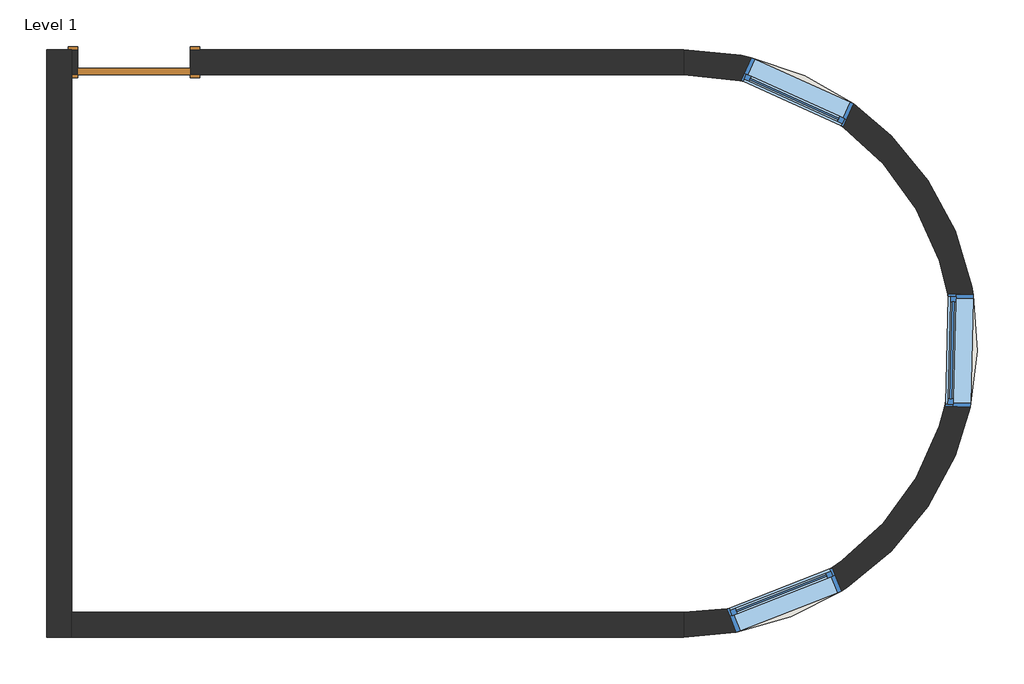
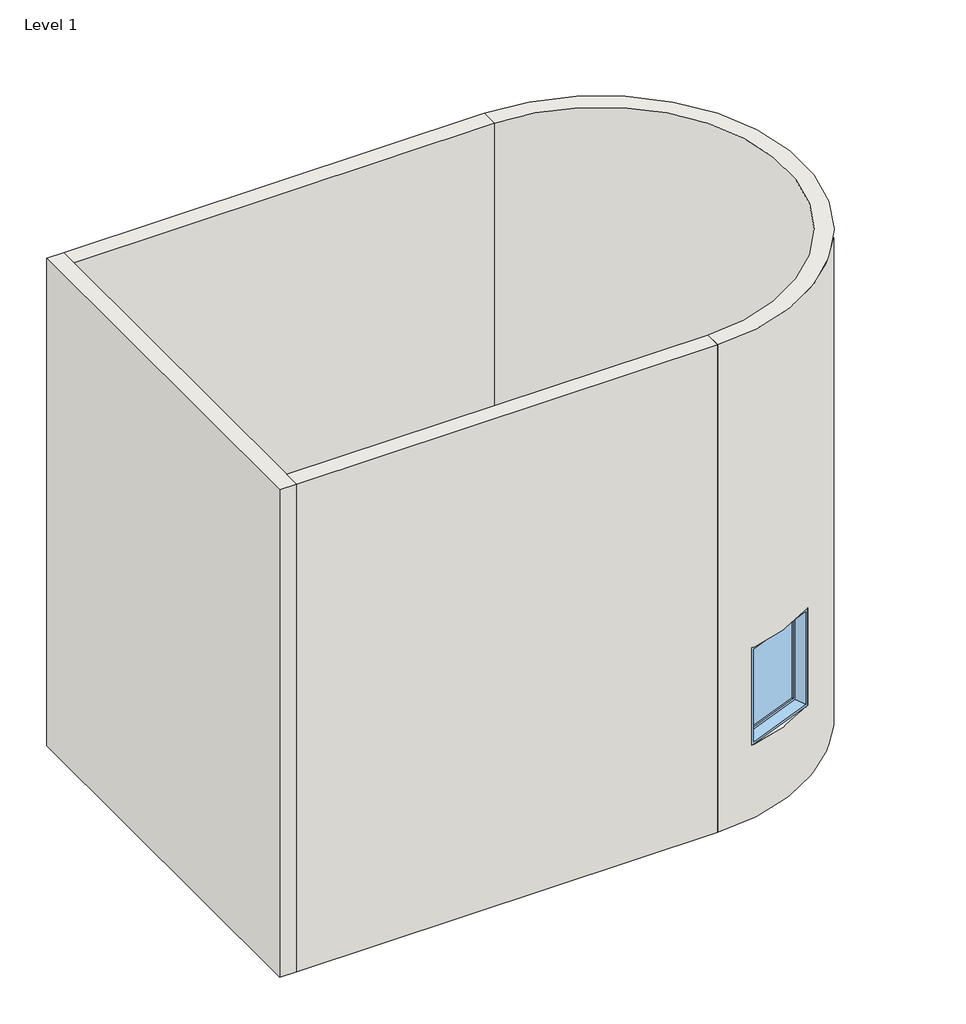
# One storey: 4 walls, 3 windows, 1 door.
"""IFC4 building model written with IfcOpenShell, lengths in millimetres."""

from ifc_helpers import new_model, si_unit, frame, origin, origin_with_axes, place, context, project, spatial, polyline, circle_curve, outline, extrude, faceted_brep, transform, mapped, element, save
from ifc_brep_helpers import plane_surface, cylinder_surface, revolved_surface, advanced_brep
from components import door_54dd4da4, window_e2841890

model = new_model("IFC4")

# Units and contexts
model_context = context("Model", 3, world=origin())
ifc_project = project(units=[si_unit("LENGTHUNIT", "METRE", prefix="MILLI")], contexts=[model_context])

# Site, building, storey
site = spatial("IfcSite", under=ifc_project)
building = spatial("IfcBuilding", under=site)
storey = spatial("IfcBuildingStorey", under=building, Name="Level 1", Elevation=0.0)

# Door
placement = place(None, origin())
door_shape = door_54dd4da4(model_context)
element("IfcDoor", 1, ObjectType="Single-Flush : 36\" x 84\"", at=placement, inside=storey, context=model_context, shape_type="MappedRepresentation", body=[
    mapped(door_shape, transform((-4806.0926473, 2875.2750639, 0.0), x_axis=(-1.0, 0.0, 0.0), y_axis=(0.0, -1.0, 0.0), z_axis=(0.0, 0.0, 1.0))),
])

# Walls
element("IfcWall", 2, ObjectType="Generic - 8\"", at=placement, inside=storey, context=model_context, shape_type="Brep", body=[
    faceted_brep([(-5517.2926473, 2976.8750639, 0.0), (-5517.2926473, -1798.3249361, 0.0), (-5517.2926473, -1798.3249361, 6096.0), (-5517.2926473, 2976.8750639, 6096.0), (-5314.0926473, 2976.8750639, 0.0), (-5314.0926473, 2976.8750639, 6096.0), (-5314.0926473, 2773.6750639, 6096.0), (-5314.0926473, -1595.1249361, 6096.0), (-5314.0926473, -1798.3249361, 6096.0), (-5314.0926473, -1798.3249361, 0.0), (-5314.0926473, -1595.1249361, 0.0), (-5314.0926473, 2773.6750639, 0.0)], [[[0, 1, 2, 3]], [[4, 5, 6, 7, 8, 9, 10, 11]], [[1, 0, 4, 11, 10, 9]], [[3, 2, 8, 7, 6, 5]], [[2, 1, 9, 8]], [[0, 3, 5, 4]]]),
])
element("IfcWall", 3, ObjectType="Generic - 8\"", at=placement, inside=storey, context=model_context, shape_type="SweptSolid", body=[
    extrude(outline(polyline([(-338.062626, -1798.3249361), (-5314.0926473, -1798.3249361), (-5314.0926473, -1595.1249361), (-338.062626, -1595.1249361), (-338.062626, -1798.3249361)])), origin_with_axes(), (0.0, 0.0, 1.0), 6096.0),
])
element("IfcWall", 4, ObjectType="Generic - 8\"", at=placement, inside=storey, context=model_context, shape_type="SweptSolid", body=[
    extrude(outline(polyline([(0.0, -338.062626), (6096.0, -338.062626), (6096.0, -5314.0926473), (0.0, -5314.0926473), (0.0, -5263.2926473), (2133.6, -5263.2926473), (2133.6, -4348.8926473), (0.0, -4348.8926473), (0.0, -338.062626)])), frame((0.0, 2773.6750639, 0.0), z_axis=(0.0, 1.0, 0.0), x_axis=(0.0, 0.0, 1.0)), (0.0, 0.0, 1.0), 203.2),
])
element("IfcWall", 5, ObjectType="Generic - 8\"", at=placement, inside=storey, context=model_context, shape_type="AdvancedBrep", body=[
    advanced_brep(
    [(-338.062626, -1798.3249361, 6096.0), (-338.062626, 2976.8750639, 6096.0), (-338.062626, 2773.6750639, 6096.0), (-338.062626, -1595.1249361, 6096.0), (-338.062626, 2976.8750639, 0.0), (-338.062626, -1798.3249361, 0.0), (-338.062626, -1595.1249361, 0.0), (-338.062626, 2773.6750639, 0.0), (210.965727, 2912.8932829, 2133.6), (210.965727, 2912.8932829, 914.4), (1044.1305215, 2536.1124642, 914.4), (1044.1305215, 2536.1124642, 2133.6), (941.615803, -1426.427513, 2133.6), (941.615803, -1426.427513, 914.4), (90.0832237, -1759.6235911, 914.4), (90.0832237, -1759.6235911, 2133.6), (2016.3945017, 985.7159725, 2133.6), (2016.3945017, 985.7159725, 914.4), (1992.7460074, 71.621826, 914.4), (1992.7460074, 71.621826, 2133.6), (125.5064307, 2723.9195518, 2133.6), (958.6712251, 2347.1387331, 2133.6), (958.6712251, 2347.1387331, 914.4), (125.5064307, 2723.9195518, 914.4), (866.0421512, -1233.2877047, 914.4), (866.0421512, -1233.2877047, 2133.6), (14.5095719, -1566.4837828, 2133.6), (14.5095719, -1566.4837828, 914.4), (1809.0648322, 991.0797904, 914.4), (1809.0648322, 991.0797904, 2133.6), (1785.4163379, 76.9856439, 2133.6), (1785.4163379, 76.9856439, 914.4)],
    [
        (0, 1, circle_curve(frame((-338.062626, 589.2750639, 6096.0), z_axis=(0.0, 0.0, 1.0), x_axis=(1.0, 0.0, 0.0)), 2387.6)),
        (1, 2),
        (2, 3, circle_curve(frame((-338.062626, 589.2750639, 6096.0), z_axis=(0.0, 0.0, -1.0), x_axis=(1.0, 0.0, 0.0)), 2184.4)),
        (3, 0),
        (4, 5, circle_curve(frame((-338.062626, 589.2750639, 0.0), z_axis=(0.0, 0.0, -1.0), x_axis=(1.0, 0.0, 0.0)), 2387.6)),
        (5, 6),
        (6, 7, circle_curve(frame((-338.062626, 589.2750639, 0.0), z_axis=(0.0, 0.0, 1.0), x_axis=(1.0, 0.0, 0.0)), 2184.4)),
        (7, 4),
        (0, 5),
        (4, 1),
        (8, 9),
        (9, 10, circle_curve(frame((-338.062626, 589.2750639, 914.4), z_axis=(0.0, 0.0, -1.0), x_axis=(1.0, 0.0, 0.0)), 2387.6)),
        (10, 11),
        (11, 8, circle_curve(frame((-338.062626, 589.2750639, 2133.6), z_axis=(0.0, 0.0, 1.0), x_axis=(1.0, 0.0, 0.0)), 2387.6)),
        (12, 13),
        (13, 14, circle_curve(frame((-338.062626, 589.2750639, 914.4), z_axis=(0.0, 0.0, -1.0), x_axis=(1.0, 0.0, 0.0)), 2387.6)),
        (14, 15),
        (15, 12, circle_curve(frame((-338.062626, 589.2750639, 2133.6), z_axis=(0.0, 0.0, 1.0), x_axis=(1.0, 0.0, 0.0)), 2387.6)),
        (16, 17),
        (17, 18, circle_curve(frame((-338.062626, 589.2750639, 914.4), z_axis=(0.0, 0.0, -1.0), x_axis=(1.0, 0.0, 0.0)), 2387.6)),
        (18, 19),
        (19, 16, circle_curve(frame((-338.062626, 589.2750639, 2133.6), z_axis=(0.0, 0.0, 1.0), x_axis=(1.0, 0.0, 0.0)), 2387.6)),
        (7, 2),
        (6, 3),
        (20, 21, circle_curve(frame((-338.062626, 589.2750639, 2133.6), z_axis=(0.0, 0.0, -1.0), x_axis=(1.0, 0.0, 0.0)), 2184.4)),
        (21, 22),
        (22, 23, circle_curve(frame((-338.062626, 589.2750639, 914.4), z_axis=(0.0, 0.0, 1.0), x_axis=(1.0, 0.0, 0.0)), 2184.4)),
        (23, 20),
        (24, 25),
        (25, 26, circle_curve(frame((-338.062626, 589.2750639, 2133.6), z_axis=(0.0, 0.0, -1.0), x_axis=(1.0, 0.0, 0.0)), 2184.4)),
        (26, 27),
        (27, 24, circle_curve(frame((-338.062626, 589.2750639, 914.4), z_axis=(0.0, 0.0, 1.0), x_axis=(1.0, 0.0, 0.0)), 2184.4)),
        (28, 29),
        (29, 30, circle_curve(frame((-338.062626, 589.2750639, 2133.6), z_axis=(0.0, 0.0, -1.0), x_axis=(1.0, 0.0, 0.0)), 2184.4)),
        (30, 31),
        (31, 28, circle_curve(frame((-338.062626, 589.2750639, 914.4), z_axis=(0.0, 0.0, 1.0), x_axis=(1.0, 0.0, 0.0)), 2184.4)),
        (8, 20),
        (23, 9),
        (22, 10),
        (21, 11),
        (12, 25),
        (24, 13),
        (27, 14),
        (26, 15),
        (16, 29),
        (28, 17),
        (31, 18),
        (30, 19),
    ],
    [
        plane_surface(frame((2049.537374, 589.2750639, 6096.0), z_axis=(0.0, 0.0, 1.0), x_axis=(0.0, 1.0, 0.0))),
        plane_surface(frame((2049.537374, 589.2750639, 0.0), z_axis=(0.0, 0.0, -1.0), x_axis=(0.0, -1.0, 0.0))),
        cylinder_surface(frame((-338.062626, 589.2750639, 0.0), z_axis=(0.0, 0.0, 1.0), x_axis=(1.0, 0.0, 0.0)), 2387.6),
        plane_surface(frame((-338.062626, 2976.8750639, 6096.0), z_axis=(-1.0, 0.0, 0.0), x_axis=(0.0, 0.0, -1.0))),
        revolved_surface(polyline([(1846.3373740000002, 589.2750639, 0.0), (1846.3373740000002, 589.2750639, 6096.0)]), (-338.062626, 589.2750639, 0.0), (0.0, 0.0, -1.0)),
        plane_surface(frame((-338.062626, -1595.1249361, 6096.0), z_axis=(-1.0, 0.0, 0.0), x_axis=(0.0, 0.0, -1.0))),
        plane_surface(frame((210.965727, 2912.8932829, 2133.6), z_axis=(0.9111600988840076, -0.41205251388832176, 0.0), x_axis=(-0.41205251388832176, -0.9111600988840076, 0.0))),
        plane_surface(frame((210.965727, 2912.8932829, 914.4), z_axis=(0.0, 0.0, 1.0000000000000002), x_axis=(-0.4120525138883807, -0.911160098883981, 0.0))),
        plane_surface(frame((1044.1305215, 2536.1124642, 914.4), z_axis=(-0.9111600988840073, 0.4120525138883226, 0.0), x_axis=(-0.4120525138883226, -0.9111600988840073, 0.0))),
        plane_surface(frame((1044.1305215, 2536.1124642, 2133.6), z_axis=(0.0, 0.0, -1.0000000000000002), x_axis=(-0.41205251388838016, -0.9111600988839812, 0.0))),
        plane_surface(frame((386.2890061, -7.2065475, 2133.6), z_axis=(-0.9312473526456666, -0.36438766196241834, 0.0), x_axis=(0.36438766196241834, -0.9312473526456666, 0.0))),
        plane_surface(frame((386.2890061, -7.2065475, 914.4), z_axis=(0.0, 0.0, 1.0000000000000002), x_axis=(0.36438766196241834, -0.9312473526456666, 0.0))),
        plane_surface(frame((-465.2435731, -340.4026256, 914.4), z_axis=(0.9312473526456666, 0.36438766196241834, 0.0), x_axis=(0.36438766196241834, -0.9312473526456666, 0.0))),
        plane_surface(frame((-465.2435731, -340.4026256, 2133.6), z_axis=(0.0, 0.0, -1.0000000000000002), x_axis=(0.36438766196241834, -0.9312473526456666, 0.0))),
        plane_surface(frame((2016.3945017, 985.7159725, 2133.6), z_axis=(-0.025862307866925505, -0.9996655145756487, 0.0), x_axis=(-0.9996655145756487, 0.025862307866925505, 0.0))),
        plane_surface(frame((2016.3945017, 985.7159725, 914.4), z_axis=(0.0, 0.0, 1.0), x_axis=(-0.9996655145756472, 0.025862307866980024, 0.0))),
        plane_surface(frame((1992.7460074, 71.621826, 914.4), z_axis=(0.025862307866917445, 0.9996655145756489, 0.0), x_axis=(-0.9996655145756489, 0.025862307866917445, 0.0))),
        plane_surface(frame((1992.7460074, 71.621826, 2133.6), z_axis=(0.0, 0.0, -1.0000000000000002), x_axis=(-0.9996655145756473, 0.025862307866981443, 0.0))),
    ],
    [
        (0, [[1, 2, 3, 4]]),
        (1, [[5, 6, 7, 8]]),
        (2, [[-1, 9, -5, 10], [11, 12, 13, 14], [15, 16, 17, 18], [19, 20, 21, 22]]),
        (3, [[-2, -10, -8, 23]]),
        (4, [[-3, -23, -7, 24], [25, 26, 27, 28], [29, 30, 31, 32], [33, 34, 35, 36]]),
        (5, [[-4, -24, -6, -9]]),
        (6, [[-11, 37, -28, 38]]),
        (7, [[-12, -38, -27, 39]]),
        (8, [[-13, -39, -26, 40]]),
        (9, [[-14, -40, -25, -37]]),
        (10, [[41, -29, 42, -15]]),
        (11, [[-42, -32, 43, -16]]),
        (12, [[-43, -31, 44, -17]]),
        (13, [[-41, -18, -44, -30]]),
        (14, [[-19, 45, -33, 46]]),
        (15, [[-20, -46, -36, 47]]),
        (16, [[-21, -47, -35, 48]]),
        (17, [[-22, -48, -34, -45]]),
    ],
),
])

# Windows
window_shape = window_e2841890(model_context)
element("IfcWindow", 6, ObjectType="Fixed : 36\" x 48\"", at=placement, inside=storey, context=model_context, shape_type="MappedRepresentation", body=[
    mapped(window_shape, transform((550.9683891, 2647.6282083, 0.0), x_axis=(-0.911160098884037, 0.4120525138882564, 0.0), y_axis=(-0.4120525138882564, -0.911160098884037, 0.0), z_axis=(0.0, 0.0, 1.0))),
])
element("IfcWindow", 7, ObjectType="Fixed : 36\" x 48\"", at=placement, inside=storey, context=model_context, shape_type="MappedRepresentation", body=[
    mapped(window_shape, transform((514.308251, -1484.5276511, 0.0), x_axis=(0.9312473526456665, 0.36438766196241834, 0.0), y_axis=(-0.36438766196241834, 0.9312473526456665, 0.0), z_axis=(0.0, 0.0, 1.0))),
])
element("IfcWindow", 8, ObjectType="Fixed : 36\" x 48\"", at=placement, inside=storey, context=model_context, shape_type="MappedRepresentation", body=[
    mapped(window_shape, transform((1903.9895922, 569.3837658, 0.0), x_axis=(0.025862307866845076, 0.9996655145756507, 0.0), y_axis=(-0.9996655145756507, 0.025862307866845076, 0.0), z_axis=(0.0, 0.0, 1.0))),
])

save(model, "model.ifc")
